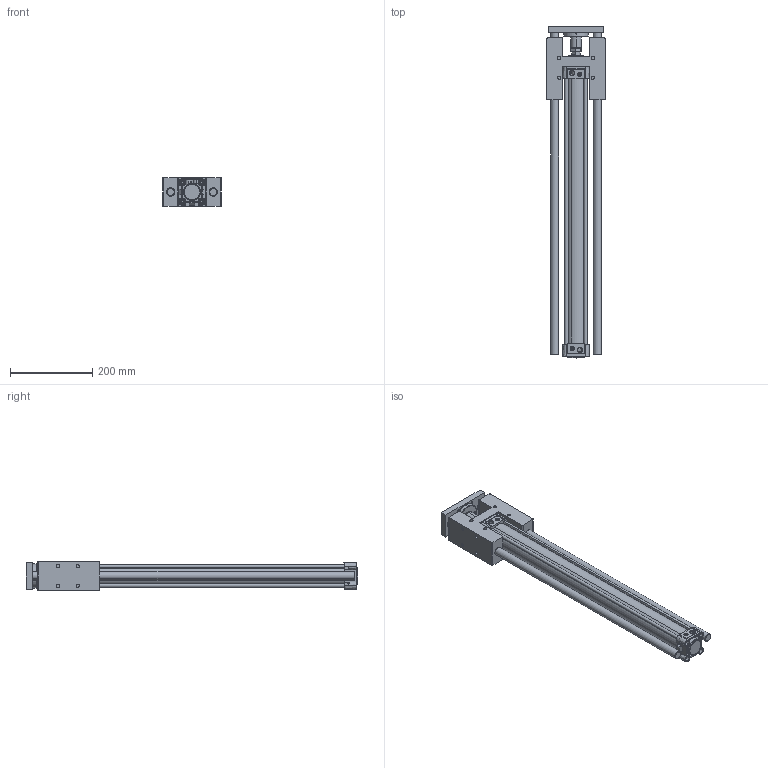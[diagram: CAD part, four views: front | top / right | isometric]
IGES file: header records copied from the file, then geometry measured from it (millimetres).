
Start section: SolidWorks IGES file using analytic representation for surfaces
Global section: file name: D:\ARICA 3D 禽Z軲LER\3D IGES\DNC-H\TDNC\50\TDNC50X600H-YATAK.IGS,1; native system: 5HSolidWorks 2013; preprocessor: SolidWorks 2013; author: user; date: 160518.150253; units: millimetre
Bounding box: 142 x 808.4 x 68.5 mm (x, y, z)
Surface area: 682444.3 mm2 (no closed solid volume)
Topology: 0 solids, 0 shells, 970 faces, 18092 edges, 18088 vertices
Faces by surface type: revolution 579, bspline 391
